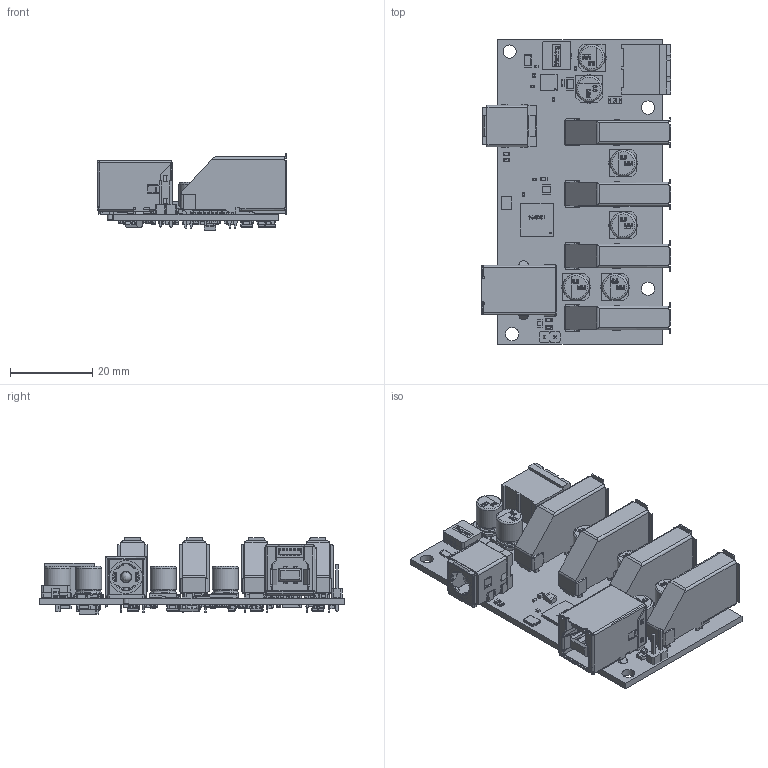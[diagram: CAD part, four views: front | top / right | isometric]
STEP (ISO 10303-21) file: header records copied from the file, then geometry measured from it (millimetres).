
FILE_DESCRIPTION(/* description */ (''),/* implementation_level */ '2;1');
FILE_NAME(/* name */ 'CG-3510X4AX1B_v0.1_Model3D_JWV1.step',/* time_stamp */ '2023-11-27T12:43:09-05:00',/* author */ (''),/* organization */ (''),/* preprocessor_version */ 'ST-DEVELOPER v20',/* originating_system */ 'Autodesk Translation Framework v12.14.0.127',/* authorisation */ '');
FILE_SCHEMA (('AUTOMOTIVE_DESIGN { 1 0 10303 214 3 1 1 }'));
Products named in the file (242): CG-3510X4AX1B_v0.1; BoardCG-3510X4AX1B_v0.1; Open CASCADE STEP translator 7.5 1.1.1; R15CG-3510X4AX1B_v0.1; U2CG-3510X4AX1B_v0.1; SOIC-8; R14CG-3510X4AX1B_v0.1; C26CG-3510X4AX1B_v0.1; R12CG-3510X4AX1B_v0.1; R13CG-3510X4AX1B_v0.1; LED1CG-3510X4AX1B_v0.1; User Library-LED_0603_R; Pocket002; Pad004; Fillet; Pocket001; Pad; LED2CG-3510X4AX1B_v0.1; User Library-LED_0603_G; Pocket002 (1); Pad004 (1); Fillet (1); Pocket001 (1); Pad (1); J_IN2CG-3510X4AX1B_v0.1; pj-082bh; pj-082bh (1); pj-082bh (9); pj-082bh (2); pj-082bh (3); pj-082bh (4); pj-082bh (10); pj-082bh (11); pj-082bh (5); pj-082bh (6); pj-082bh (7); pj-082bh (8); U6CG-3510X4AX1B_v0.1; R26CG-3510X4AX1B_v0.1; C41CG-3510X4AX1B_v0.1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
Assembly tree (333 placements, depth 4):
  CG-3510X4AX1B_v0.1
    BoardCG-3510X4AX1B_v0.1
      Open CASCADE STEP translator 7.5 1.1.1
    R15CG-3510X4AX1B_v0.1
    U2CG-3510X4AX1B_v0.1
      SOIC-8
    R14CG-3510X4AX1B_v0.1
    C26CG-3510X4AX1B_v0.1
      0402 cap
    R12CG-3510X4AX1B_v0.1
    R13CG-3510X4AX1B_v0.1
    LED1CG-3510X4AX1B_v0.1
      User Library-LED_0603_R
        Pocket002
        Pad004
        Fillet
        Pocket001
        Pad
    LED2CG-3510X4AX1B_v0.1
      User Library-LED_0603_G
        Pocket002 (1)
        Pad004 (1)
        Fillet (1)
        Pocket001 (1)
        Pad (1)
    J_IN2CG-3510X4AX1B_v0.1
      pj-082bh
      pj-082bh (1)
      pj-082bh (9)
      pj-082bh (2)
      pj-082bh (3)
      pj-082bh (4)
      pj-082bh (10)
      pj-082bh (11)
      pj-082bh (5)
      pj-082bh (6)
      pj-082bh (7)
      pj-082bh (8)
    U6CG-3510X4AX1B_v0.1
      SOT-23-5
    R26CG-3510X4AX1B_v0.1
    C41CG-3510X4AX1B_v0.1
      User Library-cap_0603-1
    C42CG-3510X4AX1B_v0.1
      0402 cap
    C54CG-3510X4AX1B_v0.1
      0402 cap
    C55CG-3510X4AX1B_v0.1
      0402 cap
    C56CG-3510X4AX1B_v0.1
      0402 cap
    FB6CG-3510X4AX1B_v0.1
      WE-CBF_0805_CBF
        74279201
        Lötende  x2
    R28CG-3510X4AX1B_v0.1
    TZ5CG-3510X4AX1B_v0.1
      6585890048
        Extruded
      6585890208
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Bounding box: 46.05 x 74 x 18.6 mm (x, y, z)
Volume: 14663.6 mm3; surface area: 26323.7 mm2
Topology: 192 solids, 194 shells, 10361 faces, 26687 edges, 16017 vertices
Faces by surface type: plane 6272, cylinder 2661, sphere 1041, bspline 303, cone 45, torus 39
Full cylindrical faces by diameter (mm): 0.08 x2, 0.3 x6, 0.375 x1, 0.7 x41, 0.92 x4, 1 x4, 1.1 x2, 1.2 x2, 1.35 x1, 1.4 x3, 2 x1, 2.3 x2, 2.4 x1, 2.5 x1, 2.7 x2, 2.8 x2, 2.85 x2, 3.2 x4, 5.1 x2, 5.8 x6, 6.3 x12, 6.4 x6
Entity records: 151878 total; most frequent: CARTESIAN_POINT 32477, ORIENTED_EDGE 23482, DIRECTION 22485, EDGE_CURVE 11742, LINE 9603, VECTOR 9603, VERTEX_POINT 7676, AXIS2_PLACEMENT_3D 6441
